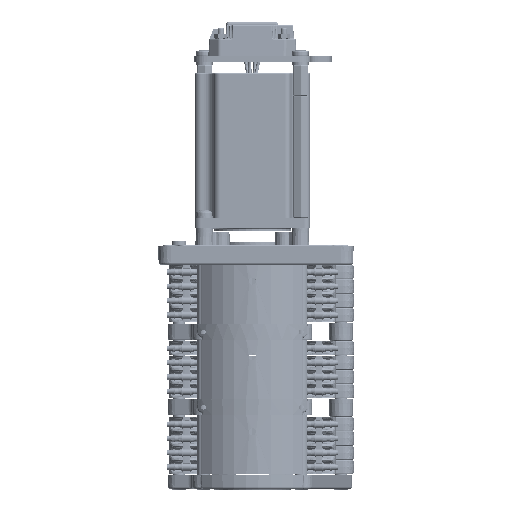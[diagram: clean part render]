
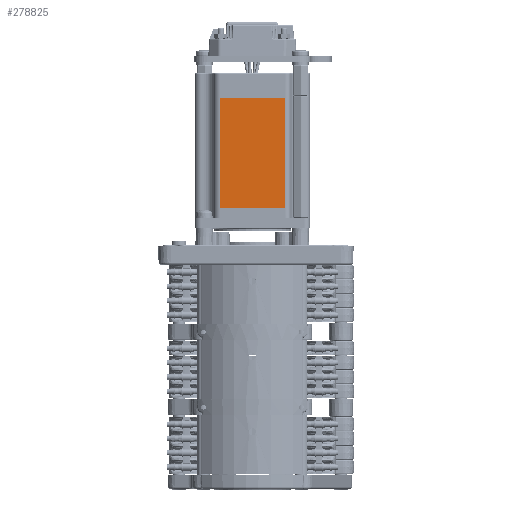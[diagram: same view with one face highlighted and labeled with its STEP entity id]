
A CAD part, front view. The second image highlights one B-rep face of the part: STEP entity #278825.
In plain terms, the highlighted planar face has unit normal (0, -1, 0).
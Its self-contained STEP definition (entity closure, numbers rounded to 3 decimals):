
#993 = CARTESIAN_POINT ( 'NONE',  ( -17.666, -29.2, 82. ) ) ;
#8874 = EDGE_CURVE ( 'NONE', #226518, #265856, #14538, .T. ) ;
#11677 = CARTESIAN_POINT ( 'NONE',  ( 14.174, -29.2, 28. ) ) ;
#14538 = LINE ( 'NONE', #232808, #163905 ) ;
#22425 = CARTESIAN_POINT ( 'NONE',  ( -17.65, -29.2, 28. ) ) ;
#26184 = FACE_OUTER_BOUND ( 'NONE', #164761, .T. ) ;
#29511 = CARTESIAN_POINT ( 'NONE',  ( 14.166, -29.2, 82. ) ) ;
#33847 = CARTESIAN_POINT ( 'NONE',  ( -17.666, -29.2, 28. ) ) ;
#36121 = B_SPLINE_CURVE_WITH_KNOTS ( 'NONE', 3,
 ( #213689, #993, #169863, #87500 ),
 .UNSPECIFIED., .F., .F.,
 ( 4, 4 ),
 ( 0., 1. ),
 .UNSPECIFIED. ) ;
#46100 = CARTESIAN_POINT ( 'NONE',  ( -21.45, -29.2, 82. ) ) ;
#52265 = CARTESIAN_POINT ( 'NONE',  ( 3.55, -29.2, 82. ) ) ;
#53377 = ORIENTED_EDGE ( 'NONE', *, *, #165471, .F. ) ;
#57028 = CARTESIAN_POINT ( 'NONE',  ( 14.158, -29.2, 28. ) ) ;
#59310 = VERTEX_POINT ( 'NONE', #93470 ) ;
#62091 = EDGE_CURVE ( 'NONE', #69307, #264898, #78000, .T. ) ;
#62995 = CARTESIAN_POINT ( 'NONE',  ( -17.65, -29.2, 82. ) ) ;
#69307 = VERTEX_POINT ( 'NONE', #278631 ) ;
#70731 = CARTESIAN_POINT ( 'NONE',  ( 14.174, -29.2, 82. ) ) ;
#72836 = CARTESIAN_POINT ( 'NONE',  ( -17.65, -29.2, 28. ) ) ;
#78000 = B_SPLINE_CURVE_WITH_KNOTS ( 'NONE', 3,
 ( #198354, #155915, #29511, #70731 ),
 .UNSPECIFIED., .F., .F.,
 ( 4, 4 ),
 ( 0., 1. ),
 .UNSPECIFIED. ) ;
#86953 = VERTEX_POINT ( 'NONE', #62995 ) ;
#87500 = CARTESIAN_POINT ( 'NONE',  ( -17.65, -29.2, 82. ) ) ;
#88677 = CARTESIAN_POINT ( 'NONE',  ( -17.674, -29.2, 28. ) ) ;
#88678 = DIRECTION ( 'NONE',  ( 0., 1., 0. ) ) ;
#89067 = CARTESIAN_POINT ( 'NONE',  ( 14.15, -29.2, 28. ) ) ;
#93470 = CARTESIAN_POINT ( 'NONE',  ( 14.174, -29.2, 28. ) ) ;
#94335 = ORIENTED_EDGE ( 'NONE', *, *, #8874, .T. ) ;
#99023 = CARTESIAN_POINT ( 'NONE',  ( 14.15, -29.2, 82. ) ) ;
#103005 = LINE ( 'NONE', #233404, #200682 ) ;
#110376 = CARTESIAN_POINT ( 'NONE',  ( 3.55, -29.2, 28. ) ) ;
#111986 = ORIENTED_EDGE ( 'NONE', *, *, #189123, .T. ) ;
#116870 = ORIENTED_EDGE ( 'NONE', *, *, #62091, .F. ) ;
#120404 = CARTESIAN_POINT ( 'NONE',  ( -17.674, -29.2, 28. ) ) ;
#130346 = VERTEX_POINT ( 'NONE', #143175 ) ;
#131656 = CARTESIAN_POINT ( 'NONE',  ( -7.05, -29.2, 28. ) ) ;
#132637 = DIRECTION ( 'NONE',  ( -1., 0., 0. ) ) ;
#143175 = CARTESIAN_POINT ( 'NONE',  ( 14.15, -29.2, 28. ) ) ;
#148648 = ORIENTED_EDGE ( 'NONE', *, *, #215911, .T. ) ;
#150278 = EDGE_CURVE ( 'NONE', #265856, #196674, #243336, .T. ) ;
#155915 = CARTESIAN_POINT ( 'NONE',  ( 14.158, -29.2, 82. ) ) ;
#163905 = VECTOR ( 'NONE', #279559, 1000. ) ;
#164761 = EDGE_LOOP ( 'NONE', ( #274623, #94335, #222200, #148648, #111986, #189676, #116870, #53377 ) ) ;
#165471 = EDGE_CURVE ( 'NONE', #86953, #69307, #218926, .T. ) ;
#165556 = DIRECTION ( 'NONE',  ( 0., 0., 1. ) ) ;
#169863 = CARTESIAN_POINT ( 'NONE',  ( -17.658, -29.2, 82. ) ) ;
#184252 = CARTESIAN_POINT ( 'NONE',  ( -17.658, -29.2, 28. ) ) ;
#189123 = EDGE_CURVE ( 'NONE', #130346, #59310, #200142, .T. ) ;
#189676 = ORIENTED_EDGE ( 'NONE', *, *, #270632, .T. ) ;
#190370 = CARTESIAN_POINT ( 'NONE',  ( -17.674, -29.2, 82. ) ) ;
#196674 = VERTEX_POINT ( 'NONE', #72836 ) ;
#198354 = CARTESIAN_POINT ( 'NONE',  ( 14.15, -29.2, 82. ) ) ;
#200142 = B_SPLINE_CURVE_WITH_KNOTS ( 'NONE', 3,
 ( #269772, #57028, #203170, #11677 ),
 .UNSPECIFIED., .F., .F.,
 ( 4, 4 ),
 ( 0.976, 0.977 ),
 .UNSPECIFIED. ) ;
#200682 = VECTOR ( 'NONE', #165556, 1000. ) ;
#203170 = CARTESIAN_POINT ( 'NONE',  ( 14.166, -29.2, 28. ) ) ;
#213689 = CARTESIAN_POINT ( 'NONE',  ( -17.674, -29.2, 82. ) ) ;
#215911 = EDGE_CURVE ( 'NONE', #196674, #130346, #253286, .T. ) ;
#218926 = B_SPLINE_CURVE_WITH_KNOTS ( 'NONE', 3,
 ( #246468, #229439, #52265, #99023 ),
 .UNSPECIFIED., .F., .F.,
 ( 4, 4 ),
 ( 0.024, 0.976 ),
 .UNSPECIFIED. ) ;
#222200 = ORIENTED_EDGE ( 'NONE', *, *, #150278, .T. ) ;
#226518 = VERTEX_POINT ( 'NONE', #190370 ) ;
#229439 = CARTESIAN_POINT ( 'NONE',  ( -7.05, -29.2, 82. ) ) ;
#230679 = CARTESIAN_POINT ( 'NONE',  ( 14.174, -29.2, 82. ) ) ;
#232808 = CARTESIAN_POINT ( 'NONE',  ( -17.674, -29.2, 5.605 ) ) ;
#233404 = CARTESIAN_POINT ( 'NONE',  ( 14.174, -29.2, 5.605 ) ) ;
#243023 = EDGE_CURVE ( 'NONE', #226518, #86953, #36121, .T. ) ;
#243336 = B_SPLINE_CURVE_WITH_KNOTS ( 'NONE', 3,
 ( #120404, #33847, #184252, #270692 ),
 .UNSPECIFIED., .F., .F.,
 ( 4, 4 ),
 ( 0.023, 0.024 ),
 .UNSPECIFIED. ) ;
#246468 = CARTESIAN_POINT ( 'NONE',  ( -17.65, -29.2, 82. ) ) ;
#253286 = B_SPLINE_CURVE_WITH_KNOTS ( 'NONE', 3,
 ( #22425, #131656, #110376, #89067 ),
 .UNSPECIFIED., .F., .F.,
 ( 4, 4 ),
 ( 0.024, 0.976 ),
 .UNSPECIFIED. ) ;
#260242 = PLANE ( 'NONE',  #262486 ) ;
#262486 = AXIS2_PLACEMENT_3D ( 'NONE', #46100, #88678, #132637 ) ;
#264898 = VERTEX_POINT ( 'NONE', #230679 ) ;
#265856 = VERTEX_POINT ( 'NONE', #88677 ) ;
#269772 = CARTESIAN_POINT ( 'NONE',  ( 14.15, -29.2, 28. ) ) ;
#270632 = EDGE_CURVE ( 'NONE', #59310, #264898, #103005, .T. ) ;
#270692 = CARTESIAN_POINT ( 'NONE',  ( -17.65, -29.2, 28. ) ) ;
#274623 = ORIENTED_EDGE ( 'NONE', *, *, #243023, .F. ) ;
#278631 = CARTESIAN_POINT ( 'NONE',  ( 14.15, -29.2, 82. ) ) ;
#278825 = ADVANCED_FACE ( 'NONE', ( #26184 ), #260242, .F. ) ;
#279559 = DIRECTION ( 'NONE',  ( 0., 0., -1. ) ) ;
